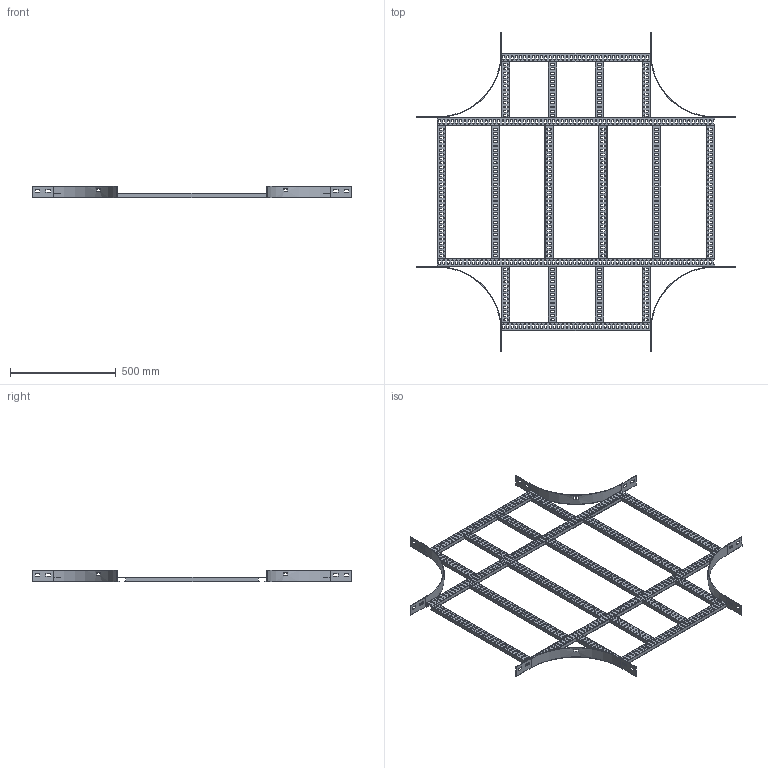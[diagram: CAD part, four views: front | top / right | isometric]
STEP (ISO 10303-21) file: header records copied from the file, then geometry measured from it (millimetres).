
FILE_DESCRIPTION(/* description */ ('','CAx-IF Rec.Pracs.---Representation and Presentation of Product Manufacturing Information (PMI)---4.0---2014-10-13'),/* implementation_level */ '2;1');
FILE_NAME(/* name */ 'Eurostrut_ECO60-700-300_Crossover for Cable Ladder ECL.step',/* time_stamp */ '2026-09-03T13:20:51+02:00',/* author */ (''),/* organization */ (''),/* preprocessor_version */ 'ST-DEVELOPER v20.1',/* originating_system */ 'Autodesk Revit 2027 27.2.0.39',/* authorisation */ '');
FILE_SCHEMA (('AP242_MANAGED_MODEL_BASED_3D_ENGINEERING_MIM_LF { 1 0 10303 442 2 1 4 }'));
Products named in the file (10): TopLevelAssembly; Sweep; Sweep_1; Sweep_2; Sweep_3; Eurostrut_Cable Ladder_Rung_With slots; Eurostrut_Cable Ladder_Rung_With slots_1; Eurostrut_Cable Ladder_Rung Array Straight_Slotted; Eurostrut_Cable Ladder_Rung Array Straight_Slotted_1; Eurostrut_Cable Ladder_Accessory End_54-94-142
Assembly tree (19 placements, depth 2):
  TopLevelAssembly
    Sweep
    Sweep_1
    Eurostrut_Cable Ladder_Rung_With slots  x2
    Eurostrut_Cable Ladder_Rung_With slots_1  x2
    Sweep_2
    Sweep_3
    Eurostrut_Cable Ladder_Rung Array Straight_Slotted
    Eurostrut_Cable Ladder_Rung Array Straight_Slotted_1  x2
    Eurostrut_Cable Ladder_Accessory End_54-94-142  x8
Bounding box: 1511 x 1511 x 54 mm (x, y, z)
Volume: 1632998.7 mm3; surface area: 1995295.1 mm2
Topology: 30 solids, 30 shells, 2444 faces, 7152 edges, 4768 vertices
Faces by surface type: plane 1380, bspline 984, cylinder 80
Entity records: 74938 total; most frequent: CARTESIAN_POINT 30569, ORIENTED_EDGE 9552, DIRECTION 8214, EDGE_CURVE 4776, LINE 3292, VECTOR 3292, VERTEX_POINT 3184, AXIS2_PLACEMENT_3D 2461
